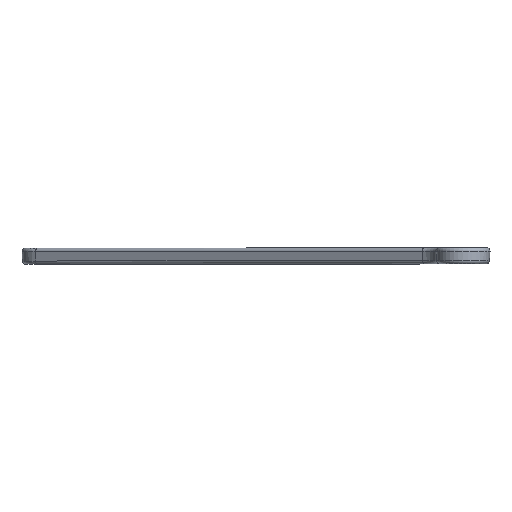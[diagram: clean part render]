
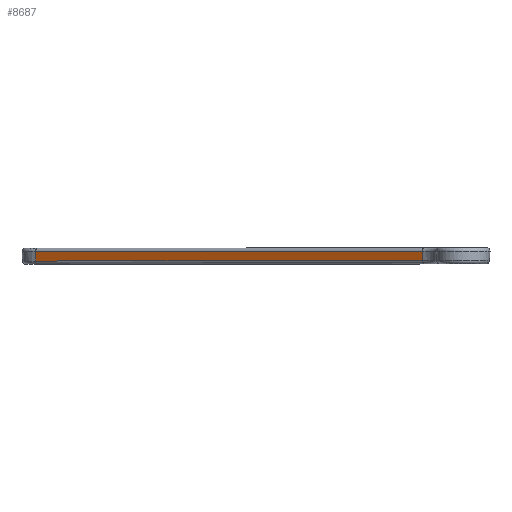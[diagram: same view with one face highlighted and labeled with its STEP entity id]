
A CAD part, top view. The second image highlights one B-rep face of the part: STEP entity #8687.
In plain terms, the highlighted planar face has unit normal (-0.499, -0.052, 0.865).
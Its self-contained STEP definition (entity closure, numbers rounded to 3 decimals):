
#538 = DIRECTION ( 'NONE',  ( 0.866, 0., 0.5 ) ) ;
#551 = DIRECTION ( 'NONE',  ( -0.499, -0.052, 0.865 ) ) ;
#570 = CARTESIAN_POINT ( 'NONE',  ( 22.026, -4., -38.15 ) ) ;
#586 = PLANE ( 'NONE',  #4534 ) ;
#1093 = DIRECTION ( 'NONE',  ( 0.026, -0.999, -0.045 ) ) ;
#1117 = LINE ( 'NONE', #5585, #1167 ) ;
#1167 = VECTOR ( 'NONE', #5576, 1000. ) ;
#1189 = EDGE_CURVE ( 'NONE', #7992, #7676, #5412, .T. ) ;
#1226 = EDGE_CURVE ( 'NONE', #8174, #6942, #5155, .T. ) ;
#1235 = EDGE_CURVE ( 'NONE', #7676, #6942, #5186, .T. ) ;
#1707 = CARTESIAN_POINT ( 'NONE',  ( -372.086, -4.157, -265.7 ) ) ;
#1778 = DIRECTION ( 'NONE',  ( 0.866, 0., 0.5 ) ) ;
#1802 = CARTESIAN_POINT ( 'NONE',  ( -35.25, -4., -71.218 ) ) ;
#2206 = DIRECTION ( 'NONE',  ( 0.026, -0.999, -0.045 ) ) ;
#2244 = CARTESIAN_POINT ( 'NONE',  ( -35.246, -4.157, -71.225 ) ) ;
#2260 = CARTESIAN_POINT ( 'NONE',  ( -372.091, -4., -265.693 ) ) ;
#4534 = AXIS2_PLACEMENT_3D ( 'NONE', #570, #551, #538 ) ;
#4628 = CARTESIAN_POINT ( 'NONE',  ( -35.246, -4.157, -71.225 ) ) ;
#4655 = EDGE_LOOP ( 'NONE', ( #7040, #7641, #8101, #6479 ) ) ;
#5155 = LINE ( 'NONE', #1802, #5173 ) ;
#5173 = VECTOR ( 'NONE', #2206, 1000. ) ;
#5186 = LINE ( 'NONE', #2244, #5446 ) ;
#5412 = LINE ( 'NONE', #2260, #5479 ) ;
#5446 = VECTOR ( 'NONE', #1778, 1000. ) ;
#5479 = VECTOR ( 'NONE', #1093, 1000. ) ;
#5576 = DIRECTION ( 'NONE',  ( -0.866, 0., -0.5 ) ) ;
#5585 = CARTESIAN_POINT ( 'NONE',  ( 21.82, 3.843, -37.794 ) ) ;
#6479 = ORIENTED_EDGE ( 'NONE', *, *, #1235, .T. ) ;
#6858 = CARTESIAN_POINT ( 'NONE',  ( -35.456, 3.843, -70.862 ) ) ;
#6942 = VERTEX_POINT ( 'NONE', #4628 ) ;
#7040 = ORIENTED_EDGE ( 'NONE', *, *, #1226, .F. ) ;
#7317 = FACE_OUTER_BOUND ( 'NONE', #4655, .T. ) ;
#7641 = ORIENTED_EDGE ( 'NONE', *, *, #8302, .T. ) ;
#7676 = VERTEX_POINT ( 'NONE', #1707 ) ;
#7992 = VERTEX_POINT ( 'NONE', #8513 ) ;
#8101 = ORIENTED_EDGE ( 'NONE', *, *, #1189, .T. ) ;
#8174 = VERTEX_POINT ( 'NONE', #6858 ) ;
#8302 = EDGE_CURVE ( 'NONE', #8174, #7992, #1117, .T. ) ;
#8513 = CARTESIAN_POINT ( 'NONE',  ( -372.296, 3.843, -265.337 ) ) ;
#8687 = ADVANCED_FACE ( 'NONE', ( #7317 ), #586, .T. ) ;
